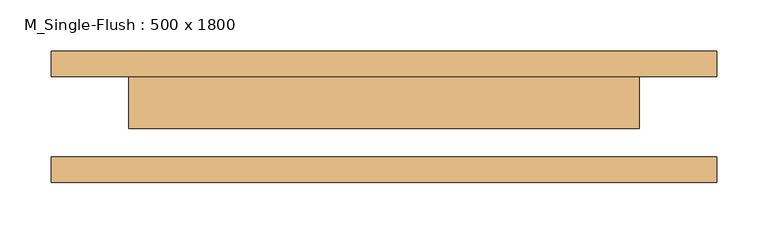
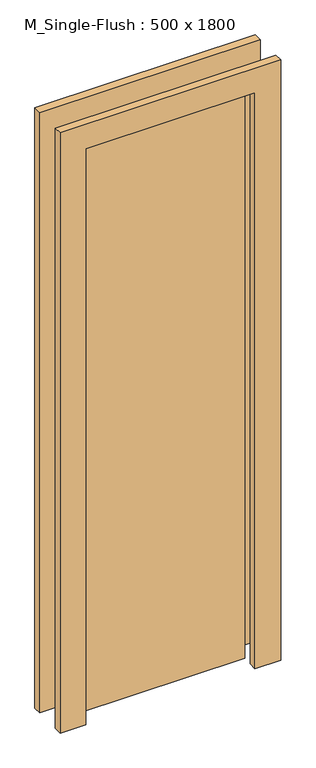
"""IFC4 building model written with IfcOpenShell, lengths in millimetres: door geometry, M_Single-Flush : 500 x 1800."""

from ifc_helpers import new_model, si_unit, frame, origin, origin_with_axes, place, context, project, spatial, polyline, outline, extrude, source, transform, mapped, element, save


def m_single_flush_500_x_1800_40eb233f(model_context):
    return source(origin(), model_context, "Body", "SweptSolid", [
        extrude(outline(polyline([(1876.0, -326.0), (0.0, -326.0), (0.0, -250.0), (1800.0, -250.0), (1800.0, 250.0), (0.0, 250.0), (0.0, 326.0), (1876.0, 326.0), (1876.0, -326.0)])), frame((0.0, 39.5, 0.0), z_axis=(0.0, 1.0, 0.0), x_axis=(0.0, 0.0, 1.0)), (0.0, 0.0, 1.0), 25.0),
        extrude(outline(polyline([(1876.0, 326.0), (1876.0, -326.0), (0.0, -326.0), (0.0, -250.0), (1800.0, -250.0), (1800.0, 250.0), (0.0, 250.0), (0.0, 326.0), (1876.0, 326.0)])), frame((0.0, -64.5, 0.0), z_axis=(0.0, 1.0, 0.0), x_axis=(0.0, 0.0, 1.0)), (0.0, 0.0, 1.0), 25.0),
        extrude(outline(polyline([(250.0, -11.5), (-250.0, -11.5), (-250.0, 39.5), (250.0, 39.5), (250.0, -11.5)])), origin_with_axes(), (0.0, 0.0, 1.0), 1800.0),
    ])


if __name__ == "__main__":
    model = new_model("IFC4")
    model_context = context("Model", 3, world=origin())
    ifc_project = project(units=[si_unit("LENGTHUNIT", "METRE", prefix="MILLI")], contexts=[model_context])
    site = spatial("IfcSite", under=ifc_project)
    building = spatial("IfcBuilding", under=site)
    placement = place(None, origin())
    m_single_flush_500_x_1800_shape = m_single_flush_500_x_1800_40eb233f(model_context)
    element("IfcDoor", 1, ObjectType="M_Single-Flush : 500 x 1800", at=placement, inside=building, context=model_context, shape_type="MappedRepresentation", body=[
        mapped(m_single_flush_500_x_1800_shape, transform((0.0, 0.0, 0.0), x_axis=(1.0, 0.0, 0.0), y_axis=(0.0, 1.0, 0.0), z_axis=(0.0, 0.0, 1.0))),
    ])
    save(model, "model.ifc")
